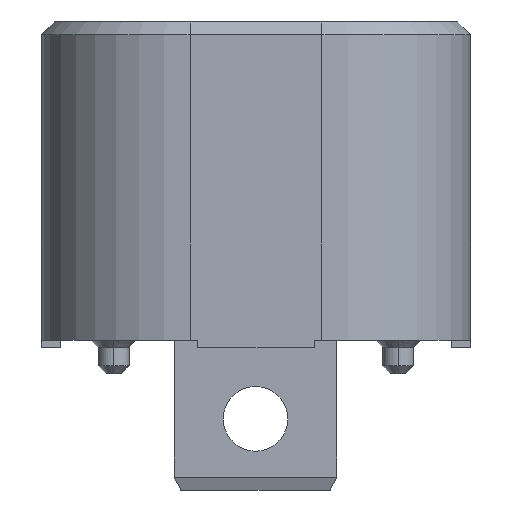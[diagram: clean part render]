
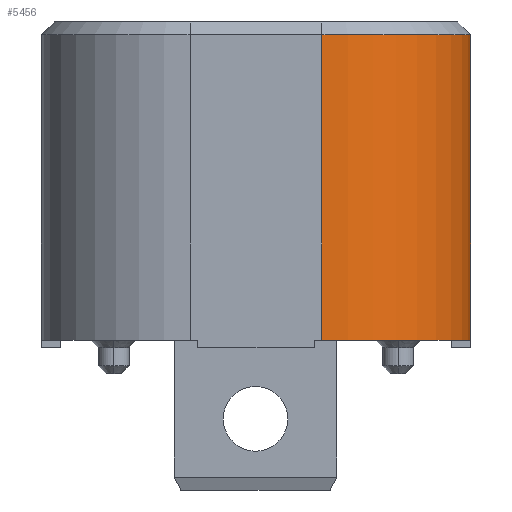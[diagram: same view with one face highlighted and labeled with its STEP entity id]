
A CAD part, left-side view. The second image highlights one B-rep face of the part: STEP entity #5456.
In plain terms, the highlighted cylindrical face has radius 5.75 mm (diameter 11.5 mm), a partial arc.
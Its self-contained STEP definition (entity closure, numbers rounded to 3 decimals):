
#483=CARTESIAN_POINT('',(-15.95,-2.55,-2.2));
#484=DIRECTION('',(0.,0.,-1.));
#485=DIRECTION('',(0.,-1.,0.));
#486=AXIS2_PLACEMENT_3D('',#483,#484,#485);
#798=CARTESIAN_POINT('',(-15.95,-2.55,9.6));
#799=DIRECTION('',(0.,0.,1.));
#800=DIRECTION('',(-1.,0.,0.));
#801=AXIS2_PLACEMENT_3D('',#798,#799,#800);
#848=DIRECTION('',(0.,0.,1.));
#849=VECTOR('',#848,11.8);
#850=CARTESIAN_POINT('',(-15.95,-8.3,-2.2));
#851=LINE('',#850,#849);
#855=DIRECTION('',(0.,0.,-1.));
#856=VECTOR('',#855,11.8);
#857=CARTESIAN_POINT('',(-21.7,-2.55,9.6));
#858=LINE('',#857,#856);
#4394=CARTESIAN_POINT('',(-15.95,-8.3,9.6));
#4395=VERTEX_POINT('',#4394);
#4488=CARTESIAN_POINT('',(-21.7,-2.55,9.6));
#4489=VERTEX_POINT('',#4488);
#4490=CARTESIAN_POINT('',(-15.95,-8.3,-2.2));
#4491=CARTESIAN_POINT('',(-21.7,-2.55,-2.2));
#4492=VERTEX_POINT('',#4490);
#4493=VERTEX_POINT('',#4491);
#5445=CARTESIAN_POINT('',(-15.95,-2.55,10.1));
#5446=DIRECTION('',(0.,0.,-1.));
#5447=DIRECTION('',(-1.,0.,0.));
#5448=AXIS2_PLACEMENT_3D('',#5445,#5446,#5447);
#5449=CYLINDRICAL_SURFACE('',#5448,5.75);
#5450=ORIENTED_EDGE('',*,*,#5335,.F.);
#5451=ORIENTED_EDGE('',*,*,#5233,.T.);
#5452=ORIENTED_EDGE('',*,*,#5429,.F.);
#5453=ORIENTED_EDGE('',*,*,#5405,.T.);
#5454=EDGE_LOOP('',(#5450,#5451,#5452,#5453));
#5455=FACE_OUTER_BOUND('',#5454,.F.);
#487=CIRCLE('',#486,5.75);
#802=CIRCLE('',#801,5.75);
#5233=EDGE_CURVE('',#4492,#4493,#487,.T.);
#5335=EDGE_CURVE('',#4492,#4395,#851,.T.);
#5405=EDGE_CURVE('',#4489,#4395,#802,.T.);
#5429=EDGE_CURVE('',#4489,#4493,#858,.T.);
#5456=ADVANCED_FACE('',(#5455),#5449,.T.);
